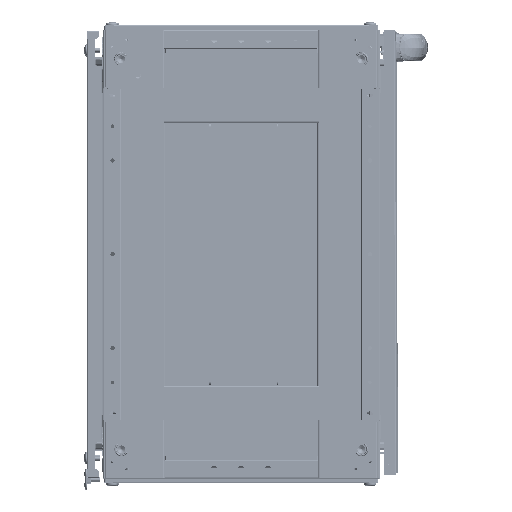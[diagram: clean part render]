
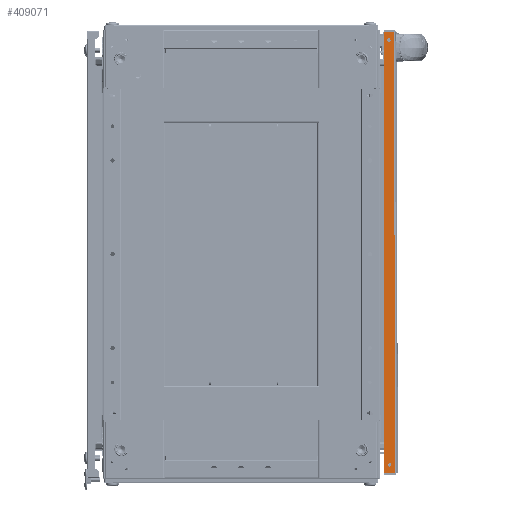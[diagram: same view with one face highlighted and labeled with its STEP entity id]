
A CAD part, front view. The second image highlights one B-rep face of the part: STEP entity #409071.
In plain terms, the highlighted planar face has unit normal (0, -1, 0) as drawn and (-1, 0, 0) by its records, which use the part's own axes.
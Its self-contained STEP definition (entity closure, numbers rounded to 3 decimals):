
#3011 = EDGE_CURVE ( 'NONE', #64031, #120240, #647315, .T. ) ;
#3529 = CARTESIAN_POINT ( 'NONE',  ( -2.01, 9., -11. ) ) ;
#6195 = ORIENTED_EDGE ( 'NONE', *, *, #3011, .T. ) ;
#16323 = CARTESIAN_POINT ( 'NONE',  ( -2.01, 16., 0. ) ) ;
#19152 = LINE ( 'NONE', #238493, #388992 ) ;
#25042 = CARTESIAN_POINT ( 'NONE',  ( -2.01, 2.01, -588. ) ) ;
#31771 = AXIS2_PLACEMENT_3D ( 'NONE', #419298, #635168, #380159 ) ;
#33617 = DIRECTION ( 'NONE',  ( 0., 0., -1. ) ) ;
#38007 = CIRCLE ( 'NONE', #433648, 2.3 ) ;
#41291 = DIRECTION ( 'NONE',  ( 1., 0., 0. ) ) ;
#54398 = CARTESIAN_POINT ( 'NONE',  ( -2.01, 16., 0. ) ) ;
#64031 = VERTEX_POINT ( 'NONE', #127935 ) ;
#67353 = EDGE_LOOP ( 'NONE', ( #577569, #527233 ) ) ;
#77155 = DIRECTION ( 'NONE',  ( 0., -1., 0. ) ) ;
#90375 = ORIENTED_EDGE ( 'NONE', *, *, #338615, .T. ) ;
#105343 = FACE_OUTER_BOUND ( 'NONE', #329588, .T. ) ;
#120240 = VERTEX_POINT ( 'NONE', #649432 ) ;
#127935 = CARTESIAN_POINT ( 'NONE',  ( -2.01, 9., -579.3 ) ) ;
#134843 = LINE ( 'NONE', #25042, #138397 ) ;
#138397 = VECTOR ( 'NONE', #520370, 1000. ) ;
#151165 = ORIENTED_EDGE ( 'NONE', *, *, #477930, .T. ) ;
#183223 = EDGE_CURVE ( 'NONE', #532848, #311202, #134843, .T. ) ;
#185986 = CARTESIAN_POINT ( 'NONE',  ( -2.01, 9., -577. ) ) ;
#228070 = DIRECTION ( 'NONE',  ( 0., 0., -1. ) ) ;
#231548 = CARTESIAN_POINT ( 'NONE',  ( -2.01, 9., -13.3 ) ) ;
#238493 = CARTESIAN_POINT ( 'NONE',  ( -2.01, 16., -588. ) ) ;
#239153 = DIRECTION ( 'NONE',  ( 0., 1., 0. ) ) ;
#268061 = CARTESIAN_POINT ( 'NONE',  ( -2.01, 16., -588. ) ) ;
#283178 = VECTOR ( 'NONE', #239153, 1000. ) ;
#286696 = VERTEX_POINT ( 'NONE', #231548 ) ;
#310679 = DIRECTION ( 'NONE',  ( 1., 0., 0. ) ) ;
#311202 = VERTEX_POINT ( 'NONE', #452219 ) ;
#315107 = DIRECTION ( 'NONE',  ( 1., 0., 0. ) ) ;
#326599 = ORIENTED_EDGE ( 'NONE', *, *, #183223, .F. ) ;
#327723 = DIRECTION ( 'NONE',  ( 0., 0., -1. ) ) ;
#329588 = EDGE_LOOP ( 'NONE', ( #326599, #151165, #680037, #90375 ) ) ;
#338615 = EDGE_CURVE ( 'NONE', #618648, #311202, #508886, .T. ) ;
#339146 = EDGE_CURVE ( 'NONE', #120240, #64031, #645903, .T. ) ;
#340711 = AXIS2_PLACEMENT_3D ( 'NONE', #185986, #564630, #33617 ) ;
#380159 = DIRECTION ( 'NONE',  ( 0., 0., -1. ) ) ;
#386191 = VECTOR ( 'NONE', #77155, 1000. ) ;
#388992 = VECTOR ( 'NONE', #228070, 1000. ) ;
#409071 = ADVANCED_FACE ( 'NONE', ( #583168, #430864, #105343 ), #696395, .F. ) ;
#419298 = CARTESIAN_POINT ( 'NONE',  ( -2.01, 9., -11. ) ) ;
#420373 = DIRECTION ( 'NONE',  ( 0., 1., 0. ) ) ;
#430864 = FACE_BOUND ( 'NONE', #67353, .T. ) ;
#433064 = CARTESIAN_POINT ( 'NONE',  ( -2.01, 2.01, 0. ) ) ;
#433648 = AXIS2_PLACEMENT_3D ( 'NONE', #3529, #315107, #531026 ) ;
#447884 = ORIENTED_EDGE ( 'NONE', *, *, #339146, .T. ) ;
#449924 = VERTEX_POINT ( 'NONE', #571200 ) ;
#452219 = CARTESIAN_POINT ( 'NONE',  ( -2.01, 2.01, -588. ) ) ;
#472253 = EDGE_CURVE ( 'NONE', #286696, #449924, #653189, .T. ) ;
#477930 = EDGE_CURVE ( 'NONE', #532848, #606229, #660504, .T. ) ;
#508886 = LINE ( 'NONE', #685576, #386191 ) ;
#520370 = DIRECTION ( 'NONE',  ( 0., 0., -1. ) ) ;
#526183 = CARTESIAN_POINT ( 'NONE',  ( -2.01, 9., -577. ) ) ;
#527233 = ORIENTED_EDGE ( 'NONE', *, *, #586600, .T. ) ;
#528132 = EDGE_LOOP ( 'NONE', ( #6195, #447884 ) ) ;
#531026 = DIRECTION ( 'NONE',  ( 0., 0., -1. ) ) ;
#532848 = VERTEX_POINT ( 'NONE', #433064 ) ;
#564630 = DIRECTION ( 'NONE',  ( 1., 0., 0. ) ) ;
#571200 = CARTESIAN_POINT ( 'NONE',  ( -2.01, 9., -8.7 ) ) ;
#577569 = ORIENTED_EDGE ( 'NONE', *, *, #472253, .T. ) ;
#578831 = EDGE_CURVE ( 'NONE', #606229, #618648, #19152, .T. ) ;
#579600 = AXIS2_PLACEMENT_3D ( 'NONE', #526183, #41291, #327723 ) ;
#583168 = FACE_BOUND ( 'NONE', #528132, .T. ) ;
#586600 = EDGE_CURVE ( 'NONE', #449924, #286696, #38007, .T. ) ;
#606229 = VERTEX_POINT ( 'NONE', #54398 ) ;
#618648 = VERTEX_POINT ( 'NONE', #650638 ) ;
#619706 = AXIS2_PLACEMENT_3D ( 'NONE', #268061, #310679, #420373 ) ;
#635168 = DIRECTION ( 'NONE',  ( 1., 0., 0. ) ) ;
#645903 = CIRCLE ( 'NONE', #340711, 2.3 ) ;
#647315 = CIRCLE ( 'NONE', #579600, 2.3 ) ;
#649432 = CARTESIAN_POINT ( 'NONE',  ( -2.01, 9., -574.7 ) ) ;
#650638 = CARTESIAN_POINT ( 'NONE',  ( -2.01, 16., -588. ) ) ;
#653189 = CIRCLE ( 'NONE', #31771, 2.3 ) ;
#660504 = LINE ( 'NONE', #16323, #283178 ) ;
#680037 = ORIENTED_EDGE ( 'NONE', *, *, #578831, .T. ) ;
#685576 = CARTESIAN_POINT ( 'NONE',  ( -2.01, 16., -588. ) ) ;
#696395 = PLANE ( 'NONE',  #619706 ) ;
